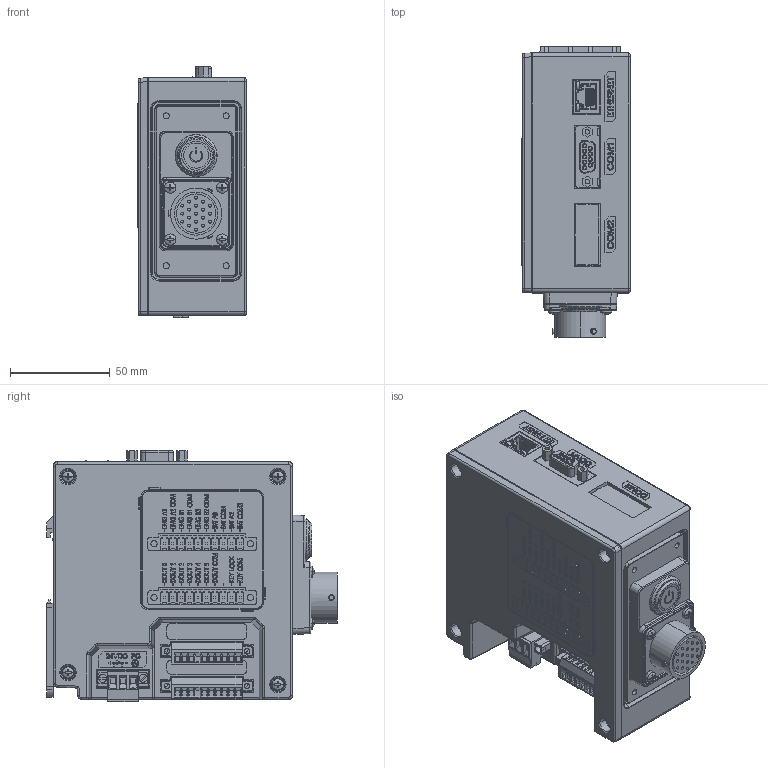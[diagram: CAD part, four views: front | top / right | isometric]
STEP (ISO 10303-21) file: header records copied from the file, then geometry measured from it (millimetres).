
FILE_DESCRIPTION((''),'2;1');
FILE_NAME('3D-TOPRH-WS','2019-01-02T',('bckim'),(''),'CREO PARAMETRIC BY PTC INC, 2016260','CREO PARAMETRIC BY PTC INC, 2016260','');
FILE_SCHEMA(('CONFIG_CONTROL_DESIGN'));
Products named in the file (1): 3D-TOPRH-WS
Bounding box: 54.2 x 145.5 x 125.9 mm (x, y, z)
Volume: 709480.6 mm3; surface area: 88469.2 mm2
Topology: 1 solids, 66 shells, 6349 faces, 16762 edges, 11037 vertices
Faces by surface type: plane 3913, extrusion 1519, cylinder 751, cone 64, bspline 44, torus 37, sphere 21
Entity records: 202024 total; most frequent: CARTESIAN_POINT 49889, ORIENTED_EDGE 33516, DIRECTION 26155, EDGE_CURVE 16758, VECTOR 13339, LINE 11820, VERTEX_POINT 11033, EDGE_LOOP 6907
